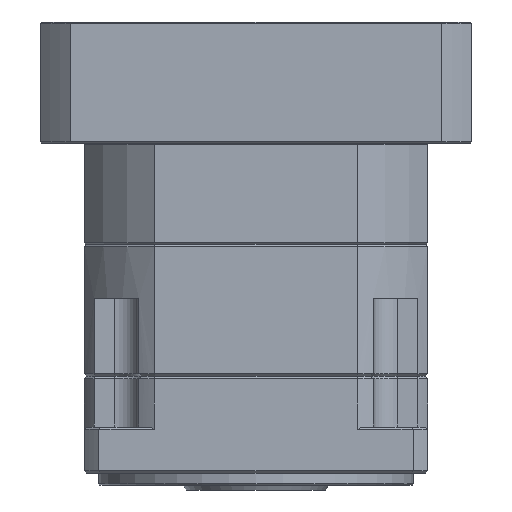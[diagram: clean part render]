
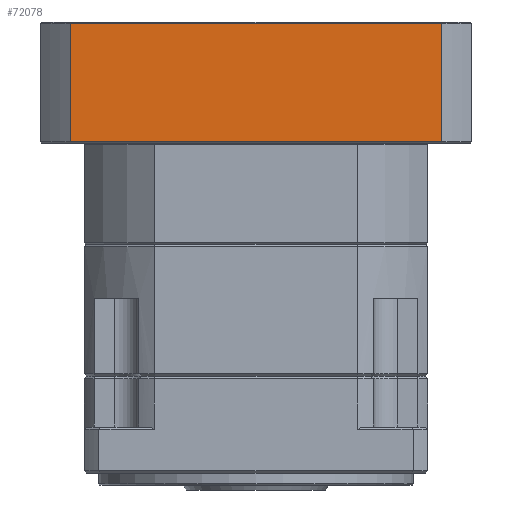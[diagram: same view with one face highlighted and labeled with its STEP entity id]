
A CAD part, front view. The second image highlights one B-rep face of the part: STEP entity #72078.
In plain terms, the highlighted planar face has unit normal (0, -1, 0).
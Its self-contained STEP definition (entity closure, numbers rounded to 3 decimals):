
#1605 = DIRECTION ( 'NONE',  ( 1., 0., 0. ) ) ;
#8981 = VECTOR ( 'NONE', #1605, 1000. ) ;
#13309 = CARTESIAN_POINT ( 'NONE',  ( -198.967, 4.655, 63.126 ) ) ;
#15414 = AXIS2_PLACEMENT_3D ( 'NONE', #109196, #88884, #35138 ) ;
#18245 = EDGE_CURVE ( 'NONE', #95763, #41185, #135318, .T. ) ;
#20118 = CARTESIAN_POINT ( 'NONE',  ( -198.967, 4.655, 63.626 ) ) ;
#23707 = ORIENTED_EDGE ( 'NONE', *, *, #37916, .F. ) ;
#28409 = ORIENTED_EDGE ( 'NONE', *, *, #124850, .F. ) ;
#32332 = VECTOR ( 'NONE', #71249, 1000. ) ;
#35138 = DIRECTION ( 'NONE',  ( 1., 0., 0. ) ) ;
#37561 = LINE ( 'NONE', #87737, #8981 ) ;
#37916 = EDGE_CURVE ( 'NONE', #48595, #92735, #86227, .T. ) ;
#41185 = VERTEX_POINT ( 'NONE', #101901 ) ;
#48595 = VERTEX_POINT ( 'NONE', #50179 ) ;
#50179 = CARTESIAN_POINT ( 'NONE',  ( -198.967, 4.655, 14.126 ) ) ;
#53995 = CARTESIAN_POINT ( 'NONE',  ( -45.536, 4.655, 63.126 ) ) ;
#57636 = FACE_OUTER_BOUND ( 'NONE', #124688, .T. ) ;
#60647 = LINE ( 'NONE', #110018, #133204 ) ;
#64290 = VECTOR ( 'NONE', #95531, 1000. ) ;
#67611 = EDGE_CURVE ( 'NONE', #48595, #41185, #37561, .T. ) ;
#71249 = DIRECTION ( 'NONE',  ( 0., 0., -1. ) ) ;
#72078 = ADVANCED_FACE ( 'NONE', ( #57636 ), #78479, .F. ) ;
#72647 = CARTESIAN_POINT ( 'NONE',  ( -45.536, 4.655, 13.626 ) ) ;
#78479 = PLANE ( 'NONE',  #15414 ) ;
#84320 = ORIENTED_EDGE ( 'NONE', *, *, #18245, .F. ) ;
#85594 = ORIENTED_EDGE ( 'NONE', *, *, #67611, .T. ) ;
#86227 = LINE ( 'NONE', #20118, #64290 ) ;
#87737 = CARTESIAN_POINT ( 'NONE',  ( -33.251, 4.655, 14.126 ) ) ;
#88884 = DIRECTION ( 'NONE',  ( 0., 1., 0. ) ) ;
#92735 = VERTEX_POINT ( 'NONE', #13309 ) ;
#95531 = DIRECTION ( 'NONE',  ( 0., 0., 1. ) ) ;
#95763 = VERTEX_POINT ( 'NONE', #53995 ) ;
#101901 = CARTESIAN_POINT ( 'NONE',  ( -45.536, 4.655, 14.126 ) ) ;
#109196 = CARTESIAN_POINT ( 'NONE',  ( -33.251, 4.655, 63.626 ) ) ;
#110018 = CARTESIAN_POINT ( 'NONE',  ( -33.251, 4.655, 63.126 ) ) ;
#124688 = EDGE_LOOP ( 'NONE', ( #23707, #85594, #84320, #28409 ) ) ;
#124850 = EDGE_CURVE ( 'NONE', #92735, #95763, #60647, .T. ) ;
#125093 = DIRECTION ( 'NONE',  ( 1., 0., 0. ) ) ;
#133204 = VECTOR ( 'NONE', #125093, 1000. ) ;
#135318 = LINE ( 'NONE', #72647, #32332 ) ;
